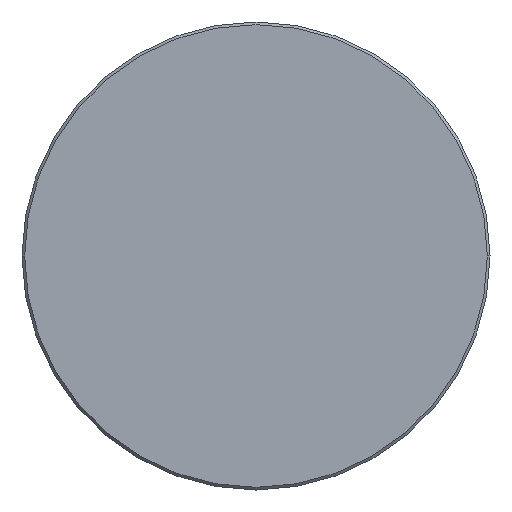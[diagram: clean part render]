
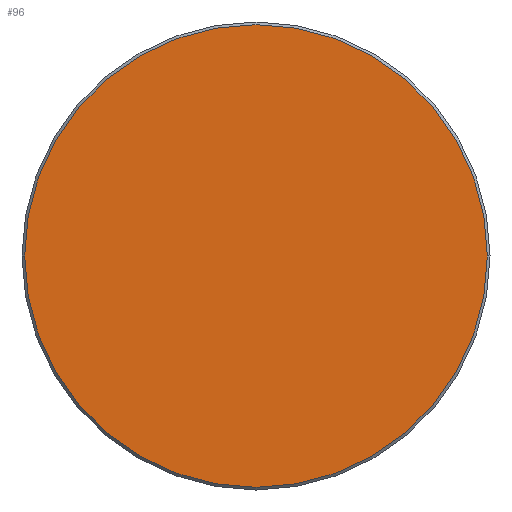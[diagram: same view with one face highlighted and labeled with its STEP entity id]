
A CAD part, left-side view. The second image highlights one B-rep face of the part: STEP entity #96.
In plain terms, the highlighted planar face has unit normal (-1, 0, 0).
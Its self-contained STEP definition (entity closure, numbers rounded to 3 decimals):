
#36 = AXIS2_PLACEMENT_3D ( 'NONE', #1253, #1252, #1250 ) ;
#44 = CIRCLE ( 'NONE', #36, 17.3 ) ;
#96 = ADVANCED_FACE ( 'NONE', ( #342 ), #341, .T. ) ;
#121 = EDGE_CURVE ( 'NONE', #290, #299, #760, .T. ) ;
#188 = EDGE_CURVE ( 'NONE', #299, #290, #44, .T. ) ;
#290 = VERTEX_POINT ( 'NONE', #1136 ) ;
#299 = VERTEX_POINT ( 'NONE', #1132 ) ;
#337 = DIRECTION ( 'NONE',  ( 0., -1., 0. ) ) ;
#340 = DIRECTION ( 'NONE',  ( -1., 0., 0. ) ) ;
#341 = PLANE ( 'NONE',  #821 ) ;
#342 = FACE_OUTER_BOUND ( 'NONE', #405, .T. ) ;
#357 = CARTESIAN_POINT ( 'NONE',  ( -92., 0., 0. ) ) ;
#405 = EDGE_LOOP ( 'NONE', ( #969, #970 ) ) ;
#752 = AXIS2_PLACEMENT_3D ( 'NONE', #1206, #1202, #1198 ) ;
#760 = CIRCLE ( 'NONE', #752, 17.3 ) ;
#821 = AXIS2_PLACEMENT_3D ( 'NONE', #357, #340, #337 ) ;
#969 = ORIENTED_EDGE ( 'NONE', *, *, #188, .T. ) ;
#970 = ORIENTED_EDGE ( 'NONE', *, *, #121, .T. ) ;
#1132 = CARTESIAN_POINT ( 'NONE',  ( -92., 17.3, 0. ) ) ;
#1136 = CARTESIAN_POINT ( 'NONE',  ( -92., -17.3, 0. ) ) ;
#1198 = DIRECTION ( 'NONE',  ( 0., -1., 0. ) ) ;
#1202 = DIRECTION ( 'NONE',  ( -1., 0., 0. ) ) ;
#1206 = CARTESIAN_POINT ( 'NONE',  ( -92., 0., 0. ) ) ;
#1250 = DIRECTION ( 'NONE',  ( 0., -1., 0. ) ) ;
#1252 = DIRECTION ( 'NONE',  ( -1., 0., 0. ) ) ;
#1253 = CARTESIAN_POINT ( 'NONE',  ( -92., 0., 0. ) ) ;
